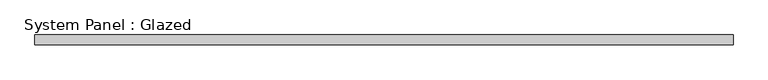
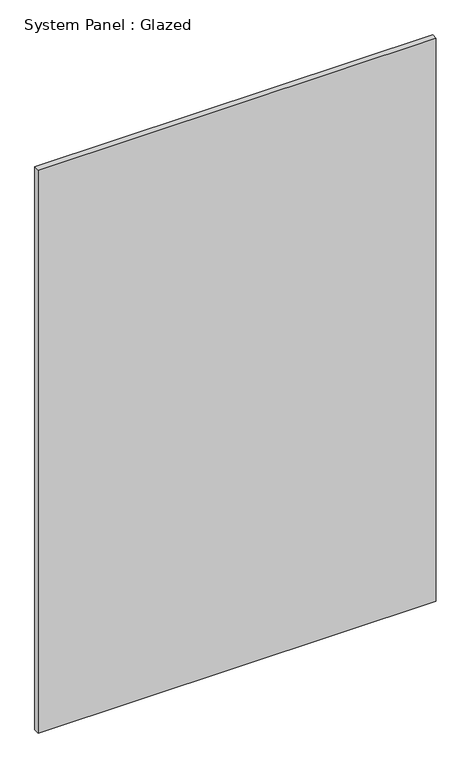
"""IFC4 building model written with IfcOpenShell, lengths in millimetres: plate geometry, System Panel : Glazed."""

import ifcopenshell
import ifcopenshell.guid

model = None  # the IFC model being written
_history = None  # IfcOwnerHistory: only IFC2X3 demands one
_inside = {}  # id of a spatial element -> (the spatial element, [elements in it])
_under = {}  # id of a project, library or spatial element -> (it, [spatial elements below it])
_declared = {}  # id of a project -> (the project, [libraries it declares])
_typed = {}  # id of a type object -> (the type object, [elements of that type])
_made_of = {}  # id of a material, layer set ... -> (it, [elements and type objects made of it])


def new_model(schema):
    """Start an empty IFC model of exactly this schema.

    Asked for "IFC4X3", IfcOpenShell would pick the latest addendum, in which some entities
    have other attributes; the version numbers below select the first issue.
    IFC2X3 requires an IfcOwnerHistory on every rooted entity: one is made here for all.
    """
    global model, _history
    if schema == "IFC4X3":
        model = ifcopenshell.file(schema_version=(4, 3, 0, 0))
    else:
        model = ifcopenshell.file(schema=schema)
    _inside.clear()
    _under.clear()
    _declared.clear()
    _typed.clear()
    _made_of.clear()
    _history = None
    if model.schema == "IFC2X3":
        org = make("IfcOrganization", Name="unknown")
        user = make(
            "IfcPersonAndOrganization",
            ThePerson=make("IfcPerson", FamilyName="unknown"),
            TheOrganization=org,
        )
        app = make(
            "IfcApplication",
            ApplicationDeveloper=org,
            Version="unknown",
            ApplicationFullName="unknown",
            ApplicationIdentifier="unknown",
        )
        _history = make(
            "IfcOwnerHistory",
            OwningUser=user,
            OwningApplication=app,
            ChangeAction="ADDED",
            CreationDate=0,
        )
    return model


def make(cls, **values):
    """One entity of the class cls with the attributes given. An attribute that is None is left unset."""
    return model.create_entity(
        cls, **{name: value for name, value in values.items() if value is not None}
    )


def rooted(cls, **values):
    """An entity with a GlobalId (a new one), such as an element, a storey or a relation."""
    return make(cls, GlobalId=ifcopenshell.guid.new(), OwnerHistory=_history, **values)


def si_unit(unit_type, name, prefix=None):
    """IfcSIUnit, for example si_unit("LENGTHUNIT", "METRE", prefix="MILLI")."""
    return make("IfcSIUnit", UnitType=unit_type, Prefix=prefix, Name=name)


def assignment(units):
    """IfcUnitAssignment: the units of a project."""
    return None if units is None else make("IfcUnitAssignment", Units=units)


def point(xyz):
    """IfcCartesianPoint."""
    return None if xyz is None else make("IfcCartesianPoint", Coordinates=xyz)


def direction(xyz):
    """IfcDirection."""
    return None if xyz is None else make("IfcDirection", DirectionRatios=xyz)


def frame(location, z_axis=None, x_axis=None):
    """IfcAxis2Placement3D, a coordinate frame: its origin and axes. An axis left out is left unset."""
    return make(
        "IfcAxis2Placement3D",
        Location=point(location),
        Axis=direction(z_axis),
        RefDirection=direction(x_axis),
    )


def origin():
    """The frame at (0, 0, 0) with its axes left unset."""
    return frame((0.0, 0.0, 0.0))


def origin_with_axes():
    """The frame at (0, 0, 0) with the z axis (0, 0, 1) and the x axis (1, 0, 0) written out."""
    return frame((0.0, 0.0, 0.0), z_axis=(0.0, 0.0, 1.0), x_axis=(1.0, 0.0, 0.0))


def place(relative_to, where):
    """IfcLocalPlacement: puts the frame where relative to a parent placement (None: the world)."""
    return make(
        "IfcLocalPlacement", PlacementRelTo=relative_to, RelativePlacement=where
    )


def context(
    kind, dimensions, precision=None, world=None, true_north=None, identifier=None
):
    """IfcGeometricRepresentationContext, for example the 3D "Model" context."""
    return make(
        "IfcGeometricRepresentationContext",
        ContextIdentifier=identifier,
        ContextType=kind,
        CoordinateSpaceDimension=dimensions,
        Precision=precision,
        WorldCoordinateSystem=world,
        TrueNorth=true_north,
    )


def project(units=None, contexts=None):
    """IfcProject with its units and contexts."""
    return rooted(
        "IfcProject",
        Name="project",
        RepresentationContexts=contexts,
        UnitsInContext=assignment(units),
    )


def spatial(cls, under=None, at=None, **own):
    """A site, building, storey or space (cls), placed at a placement, below another one or the project."""
    s = rooted(cls, ObjectPlacement=at, **own)
    if under is not None:
        _under.setdefault(under.id(), (under, []))[1].append(s)
    return s


def polyline(points):
    """IfcPolyline through the points."""
    return make("IfcPolyline", Points=[point(p) for p in points])


def outline(outer, holes=None, kind="AREA"):
    """IfcArbitraryClosedProfileDef: a profile drawn as a closed curve; with holes, ...WithVoids."""
    if holes is None:
        return make("IfcArbitraryClosedProfileDef", ProfileType=kind, OuterCurve=outer)
    return make(
        "IfcArbitraryProfileDefWithVoids",
        ProfileType=kind,
        OuterCurve=outer,
        InnerCurves=holes,
    )


def extrude(swept, where, along, depth):
    """IfcExtrudedAreaSolid: the profile swept, set in the frame where, extruded along a direction by depth."""
    return make(
        "IfcExtrudedAreaSolid",
        SweptArea=swept,
        Position=where,
        ExtrudedDirection=direction(along),
        Depth=depth,
    )


def shape(context_of_items, identifier, shape_type, items):
    """IfcShapeRepresentation: the items that make up one representation, for example the "Body"."""
    return make(
        "IfcShapeRepresentation",
        ContextOfItems=context_of_items,
        RepresentationIdentifier=identifier,
        RepresentationType=shape_type,
        Items=items,
    )


def source(mapping_origin, context_of_items, identifier, shape_type, items):
    """IfcRepresentationMap: a shape defined once, which mapped items show again and again."""
    return make(
        "IfcRepresentationMap",
        MappingOrigin=mapping_origin,
        MappedRepresentation=shape(context_of_items, identifier, shape_type, items),
    )


def transform(
    local_origin,
    x_axis=None,
    y_axis=None,
    z_axis=None,
    scale=None,
    scale2=None,
    scale3=None,
    uniform=True,
):
    """IfcCartesianTransformationOperator3D, or its non-uniform kind. x_axis, y_axis, z_axis: its Axis1, 2, 3."""
    if uniform:
        return make(
            "IfcCartesianTransformationOperator3D",
            Axis1=direction(x_axis),
            Axis2=direction(y_axis),
            LocalOrigin=point(local_origin),
            Scale=scale,
            Axis3=direction(z_axis),
        )
    return make(
        "IfcCartesianTransformationOperator3DnonUniform",
        Axis1=direction(x_axis),
        Axis2=direction(y_axis),
        LocalOrigin=point(local_origin),
        Scale=scale,
        Axis3=direction(z_axis),
        Scale2=scale2,
        Scale3=scale3,
    )


def mapped(mapping_source, mapping_target):
    """IfcMappedItem: shows the shape of a source again, moved by a transform."""
    return make(
        "IfcMappedItem", MappingSource=mapping_source, MappingTarget=mapping_target
    )


def made_of(thing, what):
    """Note that an element or type object is made of a material, layer set ...; save() writes the relation."""
    if what is not None:
        _made_of.setdefault(what.id(), (what, []))[1].append(thing)
    return thing


def element(
    cls,
    number,
    at=None,
    inside=None,
    cuts=None,
    type_object=None,
    material=None,
    context=None,
    identifier="Body",
    shape_type=None,
    held_by="IfcProductDefinitionShape",
    body=None,
    shapes=None,
    **own,
):
    """One element of the class cls, such as IfcWall. Its Tag is "e" and its number.

    at: its placement. inside: the storey or other place that contains it. cuts: it is an
    opening in that element (IfcRelVoidsElement). A single representation is given by context,
    identifier, shape_type and body (its items); several are given by shapes. held_by: the class
    of the entity that holds the representations. save() writes the other relations.
    """
    e = rooted(cls, Tag="e%d" % number, ObjectPlacement=at, **own)
    if body is not None:
        shapes = [shape(context, identifier, shape_type, body)]
    if shapes is not None:
        e.Representation = make(held_by, Representations=shapes)
    if inside is not None:
        _inside.setdefault(inside.id(), (inside, []))[1].append(e)
    if cuts is not None:
        rooted(
            "IfcRelVoidsElement", RelatingBuildingElement=cuts, RelatedOpeningElement=e
        )
    if type_object is not None:
        _typed.setdefault(type_object.id(), (type_object, []))[1].append(e)
    return made_of(e, material)


def aggregate(whole, parts):
    """IfcRelAggregates: a whole, such as a stair, and the parts it consists of."""
    return rooted("IfcRelAggregates", RelatingObject=whole, RelatedObjects=parts)


def save(model, path):
    """Write the relations noted so far, then the file.

    IfcRelAggregates (storeys below a building ...), IfcRelContainedInSpatialStructure (elements
    in a storey), IfcRelDefinesByType, IfcRelAssociatesMaterial and IfcRelDeclares: one each for
    every whole, place, type object, material and project.
    """
    for whole, parts in _under.values():
        aggregate(whole, parts)
    for where, things in _inside.values():
        rooted(
            "IfcRelContainedInSpatialStructure",
            RelatedElements=things,
            RelatingStructure=where,
        )
    for kind, things in _typed.values():
        rooted("IfcRelDefinesByType", RelatedObjects=things, RelatingType=kind)
    for what, things in _made_of.values():
        rooted("IfcRelAssociatesMaterial", RelatedObjects=things, RelatingMaterial=what)
    for by, libraries in _declared.values():
        rooted("IfcRelDeclares", RelatingContext=by, RelatedDefinitions=libraries)
    model.write(path)


def system_panel_glazed_40d013d5(model_context):
    return source(origin(), model_context, "Body", "SweptSolid", [
        extrude(outline(polyline([(891.9986512, 19.05), (-891.9986512, 19.05), (-891.9986512, 44.45), (891.9986512, 44.45), (891.9986512, 19.05)])), origin_with_axes(), (0.0, 0.0, 1.0), 2666.6267362),
    ])


if __name__ == "__main__":
    model = new_model("IFC4")
    model_context = context("Model", 3, world=origin())
    ifc_project = project(units=[si_unit("LENGTHUNIT", "METRE", prefix="MILLI")], contexts=[model_context])
    site = spatial("IfcSite", under=ifc_project)
    building = spatial("IfcBuilding", under=site)
    placement = place(None, origin())
    system_panel_glazed_shape = system_panel_glazed_40d013d5(model_context)
    element("IfcPlate", 1, ObjectType="System Panel : Glazed", at=placement, inside=building, context=model_context, shape_type="MappedRepresentation", body=[
        mapped(system_panel_glazed_shape, transform((0.0, 0.0, 0.0), x_axis=(1.0, 0.0, 0.0), y_axis=(0.0, 1.0, 0.0), z_axis=(0.0, 0.0, 1.0))),
    ])
    save(model, "model.ifc")
